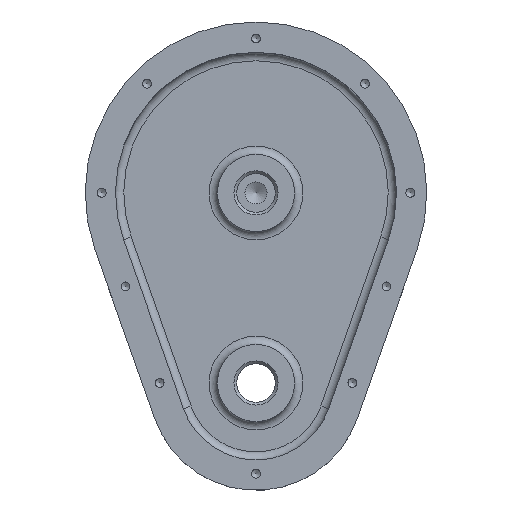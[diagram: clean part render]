
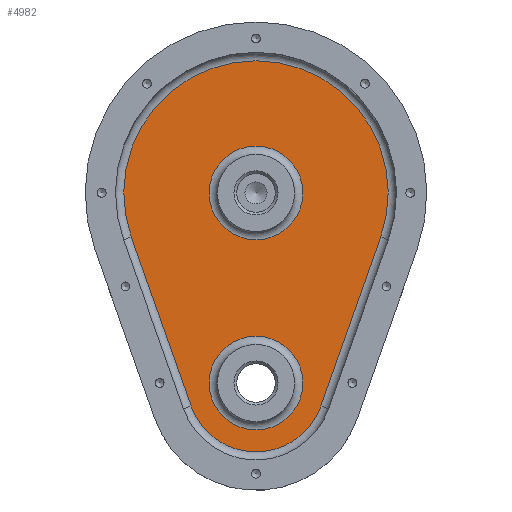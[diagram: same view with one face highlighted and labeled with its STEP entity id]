
A CAD part, top view. The second image highlights one B-rep face of the part: STEP entity #4982.
In plain terms, the highlighted planar face has unit normal (0, 0, 1).
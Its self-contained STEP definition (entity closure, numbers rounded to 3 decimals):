
#71=FACE_BOUND('',#861,.T.);
#72=FACE_BOUND('',#862,.T.);
#293=PLANE('',#5280);
#549=FACE_OUTER_BOUND('',#860,.T.);
#860=EDGE_LOOP('',(#4520,#4521,#4522,#4523));
#861=EDGE_LOOP('',(#4524));
#862=EDGE_LOOP('',(#4525));
#1147=CIRCLE('',#5279,17.);
#1148=CIRCLE('',#5281,48.);
#1149=CIRCLE('',#5282,25.);
#1150=CIRCLE('',#5283,17.);
#1605=LINE('',#8636,#2048);
#1606=LINE('',#8639,#2049);
#2048=VECTOR('',#6251,10.);
#2049=VECTOR('',#6254,10.);
#2512=VERTEX_POINT('',#8628);
#2513=VERTEX_POINT('',#8632);
#2514=VERTEX_POINT('',#8633);
#2515=VERTEX_POINT('',#8635);
#2516=VERTEX_POINT('',#8637);
#2517=VERTEX_POINT('',#8640);
#3190=EDGE_CURVE('',#2512,#2512,#1147,.T.);
#3191=EDGE_CURVE('',#2513,#2514,#1148,.T.);
#3192=EDGE_CURVE('',#2515,#2513,#1605,.T.);
#3193=EDGE_CURVE('',#2516,#2515,#1149,.T.);
#3194=EDGE_CURVE('',#2514,#2516,#1606,.T.);
#3195=EDGE_CURVE('',#2517,#2517,#1150,.T.);
#4520=ORIENTED_EDGE('',*,*,#3191,.F.);
#4521=ORIENTED_EDGE('',*,*,#3192,.F.);
#4522=ORIENTED_EDGE('',*,*,#3193,.F.);
#4523=ORIENTED_EDGE('',*,*,#3194,.F.);
#4524=ORIENTED_EDGE('',*,*,#3195,.F.);
#4525=ORIENTED_EDGE('',*,*,#3190,.F.);
#4982=ADVANCED_FACE('',(#549,#71,#72),#293,.T.);
#5279=AXIS2_PLACEMENT_3D('',#8630,#6245,#6246);
#5280=AXIS2_PLACEMENT_3D('',#8631,#6247,#6248);
#5281=AXIS2_PLACEMENT_3D('',#8634,#6249,#6250);
#5282=AXIS2_PLACEMENT_3D('',#8638,#6252,#6253);
#5283=AXIS2_PLACEMENT_3D('',#8641,#6255,#6256);
#6245=DIRECTION('center_axis',(0.,0.,1.));
#6246=DIRECTION('ref_axis',(-1.,0.,0.));
#6247=DIRECTION('center_axis',(0.,0.,1.));
#6248=DIRECTION('ref_axis',(1.,0.,0.));
#6249=DIRECTION('center_axis',(0.,0.,-1.));
#6250=DIRECTION('ref_axis',(0.,1.,0.));
#6251=DIRECTION('',(-0.333,0.943,0.));
#6252=DIRECTION('center_axis',(0.,0.,-1.));
#6253=DIRECTION('ref_axis',(0.,-1.,0.));
#6254=DIRECTION('',(-0.333,-0.943,0.));
#6255=DIRECTION('center_axis',(0.,0.,1.));
#6256=DIRECTION('ref_axis',(-1.,0.,0.));
#8628=CARTESIAN_POINT('',(17.,-69.,5.));
#8630=CARTESIAN_POINT('Origin',(0.,-69.,5.));
#8631=CARTESIAN_POINT('Origin',(0.,-21.984,5.));
#8632=CARTESIAN_POINT('',(-45.255,-16.,5.));
#8633=CARTESIAN_POINT('',(45.255,-16.,5.));
#8634=CARTESIAN_POINT('Origin',(0.,0.,5.));
#8635=CARTESIAN_POINT('',(-23.57,-77.333,5.));
#8636=CARTESIAN_POINT('',(-41.8,-25.771,5.));
#8637=CARTESIAN_POINT('',(23.57,-77.333,5.));
#8638=CARTESIAN_POINT('Origin',(0.,-69.,5.));
#8639=CARTESIAN_POINT('',(30.958,-56.437,5.));
#8640=CARTESIAN_POINT('',(17.,0.,5.));
#8641=CARTESIAN_POINT('Origin',(0.,0.,5.));
